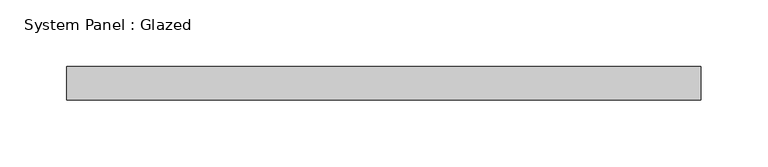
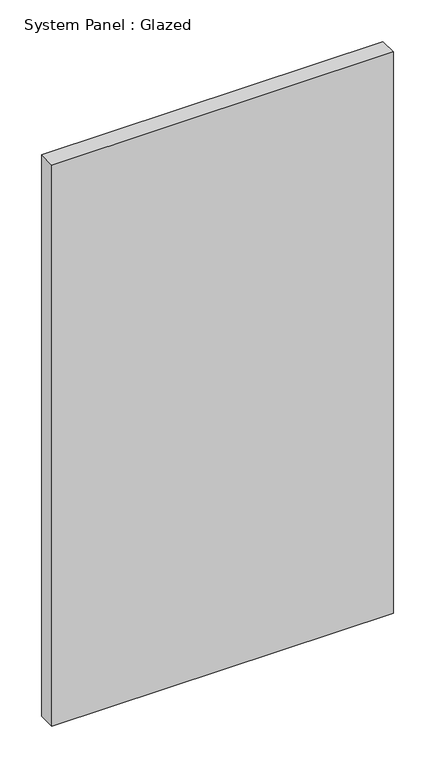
"""IFC4 building model written with IfcOpenShell, lengths in millimetres: plate geometry, System Panel : Glazed."""

from ifc_helpers import new_model, si_unit, origin, origin_with_axes, place, context, project, spatial, polyline, outline, extrude, source, transform, mapped, element, save


def system_panel_glazed_e7e54dde(model_context):
    return source(origin(), model_context, "Body", "SweptSolid", [
        extrude(outline(polyline([(237.5, 24.5), (-237.5, 24.5), (-237.5, 49.5), (237.5, 49.5), (237.5, 24.5)])), origin_with_axes(), (0.0, 0.0, 1.0), 825.0),
    ])


if __name__ == "__main__":
    model = new_model("IFC4")
    model_context = context("Model", 3, world=origin())
    ifc_project = project(units=[si_unit("LENGTHUNIT", "METRE", prefix="MILLI")], contexts=[model_context])
    site = spatial("IfcSite", under=ifc_project)
    building = spatial("IfcBuilding", under=site)
    placement = place(None, origin())
    system_panel_glazed_shape = system_panel_glazed_e7e54dde(model_context)
    element("IfcPlate", 1, ObjectType="System Panel : Glazed", at=placement, inside=building, context=model_context, shape_type="MappedRepresentation", body=[
        mapped(system_panel_glazed_shape, transform((0.0, 0.0, 0.0), x_axis=(1.0, 0.0, 0.0), y_axis=(0.0, 1.0, 0.0), z_axis=(0.0, 0.0, 1.0))),
    ])
    save(model, "model.ifc")
